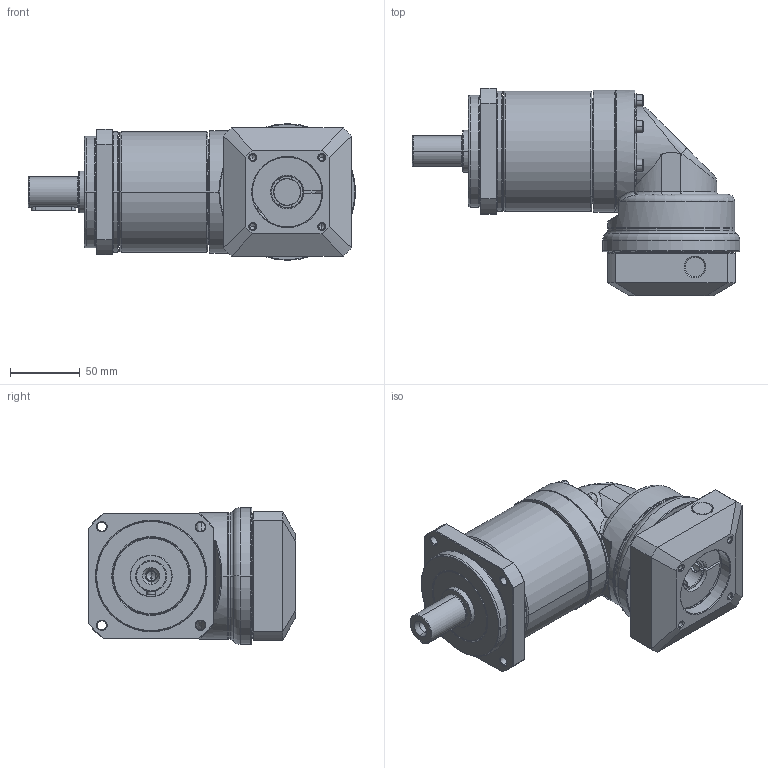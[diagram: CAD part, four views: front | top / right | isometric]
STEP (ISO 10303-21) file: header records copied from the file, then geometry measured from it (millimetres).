
FILE_DESCRIPTION((''),'2;1');
FILE_NAME('PA2R-090_2ST_19-P0411400101_ASM','2016-05-16T',('d01943'),(''),'PRO/ENGINEER BY PARAMETRIC TECHNOLOGY CORPORATION, 2008410','PRO/ENGINEER BY PARAMETRIC TECHNOLOGY CORPORATION, 2008410','');
FILE_SCHEMA(('CONFIG_CONTROL_DESIGN'));
Length unit declared in the file: millimetre
Products named in the file (12): P1327310001; P0251300001; P0350300001; P1349300001; P1017300001; P0713301001; P0503400008; P1350300101; P0411400101; P1702500001; 2111BA05025; PA2R-090_2ST_19-P0411400101_ASM
Assembly tree (16 placements, depth 2):
  PA2R-090_2ST_19-P0411400101_ASM
    P1327310001
    P0251300001
    P0350300001
    P1349300001
    P1017300001
    P0713301001
    P0503400008
    P1350300101
    P0411400101
    P1702500001
    2111BA05025  x6
Bounding box: 234.5 x 148.5 x 98 mm (x, y, z)
Volume: 895773 mm3; surface area: 219339.1 mm2
Topology: 16 solids, 16 shells, 815 faces, 1786 edges, 1032 vertices
Faces by surface type: cylinder 246, cone 232, plane 203, torus 102, bspline 32
Entity records: 23874 total; most frequent: CARTESIAN_POINT 9275, DIRECTION 3241, ORIENTED_EDGE 2820, EDGE_CURVE 1410, AXIS2_PLACEMENT_3D 1365, VERTEX_POINT 832, EDGE_LOOP 738, CIRCLE 719
